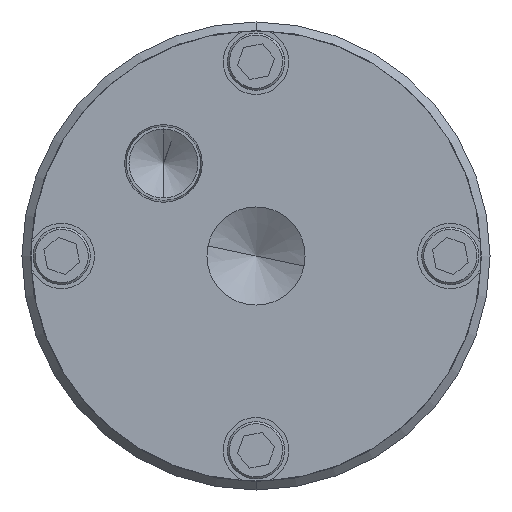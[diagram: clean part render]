
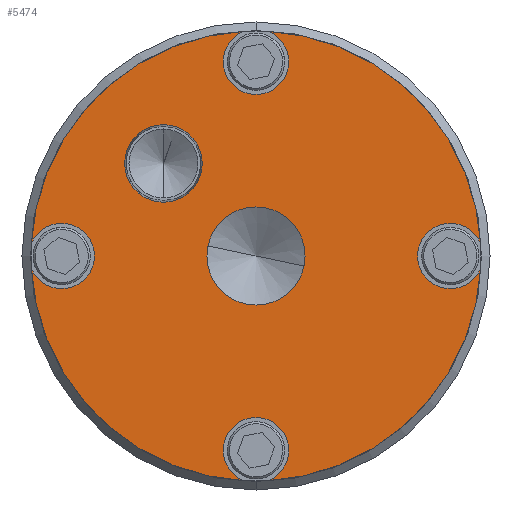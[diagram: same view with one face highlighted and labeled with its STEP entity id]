
A CAD part, front view. The second image highlights one B-rep face of the part: STEP entity #5474.
In plain terms, the highlighted planar face has unit normal (0, -1, 0).
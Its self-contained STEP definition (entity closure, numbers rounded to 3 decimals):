
#4548=CARTESIAN_POINT('',(-11.314,-83.2,-11.314));
#4549=DIRECTION('',(0.,1.,0.));
#4550=DIRECTION('',(1.,0.,0.));
#4551=AXIS2_PLACEMENT_3D('',#4548,#4549,#4550);
#4556=CARTESIAN_POINT('',(-11.314,-83.2,-11.314));
#4557=DIRECTION('',(0.,1.,0.));
#4558=DIRECTION('',(-1.,0.,0.));
#4559=AXIS2_PLACEMENT_3D('',#4556,#4557,#4558);
#4564=CARTESIAN_POINT('',(0.,-83.2,0.));
#4565=DIRECTION('',(0.,-1.,0.));
#4566=DIRECTION('',(0.999,0.,0.054));
#4567=AXIS2_PLACEMENT_3D('',#4564,#4565,#4566);
#4572=CARTESIAN_POINT('',(23.75,-83.2,0.));
#4573=DIRECTION('',(0.,1.,0.));
#4574=DIRECTION('',(-1.,0.,0.));
#4575=AXIS2_PLACEMENT_3D('',#4572,#4573,#4574);
#4580=CARTESIAN_POINT('',(23.75,-83.2,0.));
#4581=DIRECTION('',(0.,1.,0.));
#4582=DIRECTION('',(0.927,0.,-0.374));
#4583=AXIS2_PLACEMENT_3D('',#4580,#4581,#4582);
#4588=CARTESIAN_POINT('',(0.,-83.2,0.));
#4589=DIRECTION('',(0.,-1.,0.));
#4590=DIRECTION('',(0.054,0.,-0.999));
#4591=AXIS2_PLACEMENT_3D('',#4588,#4589,#4590);
#4596=CARTESIAN_POINT('',(0.,-83.2,-23.75));
#4597=DIRECTION('',(0.,1.,0.));
#4598=DIRECTION('',(1.,0.,0.));
#4599=AXIS2_PLACEMENT_3D('',#4596,#4597,#4598);
#4604=CARTESIAN_POINT('',(0.,-83.2,-23.75));
#4605=DIRECTION('',(0.,1.,0.));
#4606=DIRECTION('',(-1.,0.,0.));
#4607=AXIS2_PLACEMENT_3D('',#4604,#4605,#4606);
#4612=CARTESIAN_POINT('',(0.,-83.2,-23.75));
#4613=DIRECTION('',(0.,1.,0.));
#4614=DIRECTION('',(-0.374,0.,-0.927));
#4615=AXIS2_PLACEMENT_3D('',#4612,#4613,#4614);
#4620=CARTESIAN_POINT('',(0.,-83.2,0.));
#4621=DIRECTION('',(0.,-1.,0.));
#4622=DIRECTION('',(-0.999,0.,-0.054));
#4623=AXIS2_PLACEMENT_3D('',#4620,#4621,#4622);
#4628=CARTESIAN_POINT('',(-23.75,-83.2,0.));
#4629=DIRECTION('',(0.,1.,0.));
#4630=DIRECTION('',(1.,0.,0.));
#4631=AXIS2_PLACEMENT_3D('',#4628,#4629,#4630);
#4636=CARTESIAN_POINT('',(-23.75,-83.2,0.));
#4637=DIRECTION('',(0.,1.,0.));
#4638=DIRECTION('',(-0.927,0.,0.374));
#4639=AXIS2_PLACEMENT_3D('',#4636,#4637,#4638);
#4644=CARTESIAN_POINT('',(0.,-83.2,0.));
#4645=DIRECTION('',(0.,-1.,0.));
#4646=DIRECTION('',(-0.054,0.,0.999));
#4647=AXIS2_PLACEMENT_3D('',#4644,#4645,#4646);
#4652=CARTESIAN_POINT('',(0.,-83.2,23.75));
#4653=DIRECTION('',(0.,1.,0.));
#4654=DIRECTION('',(-1.,0.,0.));
#4655=AXIS2_PLACEMENT_3D('',#4652,#4653,#4654);
#4660=CARTESIAN_POINT('',(0.,-83.2,23.75));
#4661=DIRECTION('',(0.,1.,0.));
#4662=DIRECTION('',(1.,0.,0.));
#4663=AXIS2_PLACEMENT_3D('',#4660,#4661,#4662);
#4668=CARTESIAN_POINT('',(0.,-83.2,23.75));
#4669=DIRECTION('',(0.,1.,0.));
#4670=DIRECTION('',(0.374,0.,0.927));
#4671=AXIS2_PLACEMENT_3D('',#4668,#4669,#4670);
#4676=CARTESIAN_POINT('',(0.,-83.2,0.));
#4677=DIRECTION('',(0.,1.,0.));
#4678=DIRECTION('',(1.,0.,0.));
#4679=AXIS2_PLACEMENT_3D('',#4676,#4677,#4678);
#4684=CARTESIAN_POINT('',(0.,-83.2,0.));
#4685=DIRECTION('',(0.,1.,0.));
#4686=DIRECTION('',(-1.,0.,0.));
#4687=AXIS2_PLACEMENT_3D('',#4684,#4685,#4686);
#5209=CARTESIAN_POINT('',(-6.57,-83.2,-11.314));
#5210=VERTEX_POINT('',#5209);
#5211=CARTESIAN_POINT('',(-16.058,-83.2,-11.314));
#5212=VERTEX_POINT('',#5211);
#5231=CARTESIAN_POINT('',(4.,-83.2,23.75));
#5232=VERTEX_POINT('',#5231);
#5233=CARTESIAN_POINT('',(1.497,-83.2,27.459));
#5234=VERTEX_POINT('',#5233);
#5241=CARTESIAN_POINT('',(-4.,-83.2,23.75));
#5242=VERTEX_POINT('',#5241);
#5245=CARTESIAN_POINT('',(27.459,-83.2,1.497));
#5246=VERTEX_POINT('',#5245);
#5259=CARTESIAN_POINT('',(6.,-83.2,0.));
#5260=CARTESIAN_POINT('',(-6.,-83.2,0.));
#5261=VERTEX_POINT('',#5259);
#5262=VERTEX_POINT('',#5260);
#5263=CARTESIAN_POINT('',(19.75,-83.2,0.));
#5264=VERTEX_POINT('',#5263);
#5269=CARTESIAN_POINT('',(27.459,-83.2,-1.497));
#5270=VERTEX_POINT('',#5269);
#5271=CARTESIAN_POINT('',(-1.497,-83.2,27.459));
#5272=VERTEX_POINT('',#5271);
#5287=CARTESIAN_POINT('',(-27.459,-83.2,1.497));
#5288=VERTEX_POINT('',#5287);
#5295=CARTESIAN_POINT('',(1.497,-83.2,-27.459));
#5296=VERTEX_POINT('',#5295);
#5303=CARTESIAN_POINT('',(-19.75,-83.2,0.));
#5304=CARTESIAN_POINT('',(-27.459,-83.2,-1.497));
#5305=VERTEX_POINT('',#5303);
#5306=VERTEX_POINT('',#5304);
#5313=CARTESIAN_POINT('',(4.,-83.2,-23.75));
#5314=VERTEX_POINT('',#5313);
#5321=CARTESIAN_POINT('',(-4.,-83.2,-23.75));
#5322=VERTEX_POINT('',#5321);
#5325=CARTESIAN_POINT('',(-1.497,-83.2,-27.459));
#5326=VERTEX_POINT('',#5325);
#5429=CARTESIAN_POINT('',(0.,-83.2,0.));
#5430=DIRECTION('',(0.,1.,0.));
#5431=DIRECTION('',(1.,0.,0.));
#5432=AXIS2_PLACEMENT_3D('',#5429,#5430,#5431);
#5433=PLANE('',#5432);
#5435=ORIENTED_EDGE('',*,*,#5434,.F.);
#5437=ORIENTED_EDGE('',*,*,#5436,.F.);
#5439=ORIENTED_EDGE('',*,*,#5438,.F.);
#5441=ORIENTED_EDGE('',*,*,#5440,.F.);
#5443=ORIENTED_EDGE('',*,*,#5442,.F.);
#5445=ORIENTED_EDGE('',*,*,#5444,.F.);
#5447=ORIENTED_EDGE('',*,*,#5446,.F.);
#5449=ORIENTED_EDGE('',*,*,#5448,.F.);
#5451=ORIENTED_EDGE('',*,*,#5450,.F.);
#5453=ORIENTED_EDGE('',*,*,#5452,.F.);
#5455=ORIENTED_EDGE('',*,*,#5454,.F.);
#5457=ORIENTED_EDGE('',*,*,#5456,.F.);
#5459=ORIENTED_EDGE('',*,*,#5458,.F.);
#5461=ORIENTED_EDGE('',*,*,#5460,.F.);
#5462=EDGE_LOOP('',(#5435,#5437,#5439,#5441,#5443,#5445,#5447,#5449,#5451,#5453,
#5455,#5457,#5459,#5461));
#5463=FACE_OUTER_BOUND('',#5462,.F.);
#5464=ORIENTED_EDGE('',*,*,#5422,.F.);
#5465=ORIENTED_EDGE('',*,*,#5340,.F.);
#5466=EDGE_LOOP('',(#5464,#5465));
#5467=FACE_BOUND('',#5466,.F.);
#5469=ORIENTED_EDGE('',*,*,#5468,.F.);
#5471=ORIENTED_EDGE('',*,*,#5470,.F.);
#5472=EDGE_LOOP('',(#5469,#5471));
#5473=FACE_BOUND('',#5472,.F.);
#4552=CIRCLE('',#4551,4.744);
#4560=CIRCLE('',#4559,4.744);
#4568=CIRCLE('',#4567,27.5);
#4576=CIRCLE('',#4575,4.);
#4584=CIRCLE('',#4583,4.);
#4592=CIRCLE('',#4591,27.5);
#4600=CIRCLE('',#4599,4.);
#4608=CIRCLE('',#4607,4.);
#4616=CIRCLE('',#4615,4.);
#4624=CIRCLE('',#4623,27.5);
#4632=CIRCLE('',#4631,4.);
#4640=CIRCLE('',#4639,4.);
#4648=CIRCLE('',#4647,27.5);
#4656=CIRCLE('',#4655,4.);
#4664=CIRCLE('',#4663,4.);
#4672=CIRCLE('',#4671,4.);
#4680=CIRCLE('',#4679,6.);
#4688=CIRCLE('',#4687,6.);
#5340=EDGE_CURVE('',#5212,#5210,#4560,.T.);
#5422=EDGE_CURVE('',#5210,#5212,#4552,.T.);
#5434=EDGE_CURVE('',#5246,#5234,#4568,.T.);
#5436=EDGE_CURVE('',#5264,#5246,#4576,.T.);
#5438=EDGE_CURVE('',#5270,#5264,#4584,.T.);
#5440=EDGE_CURVE('',#5296,#5270,#4592,.T.);
#5442=EDGE_CURVE('',#5314,#5296,#4600,.T.);
#5444=EDGE_CURVE('',#5322,#5314,#4608,.T.);
#5446=EDGE_CURVE('',#5326,#5322,#4616,.T.);
#5448=EDGE_CURVE('',#5306,#5326,#4624,.T.);
#5450=EDGE_CURVE('',#5305,#5306,#4632,.T.);
#5452=EDGE_CURVE('',#5288,#5305,#4640,.T.);
#5454=EDGE_CURVE('',#5272,#5288,#4648,.T.);
#5456=EDGE_CURVE('',#5242,#5272,#4656,.T.);
#5458=EDGE_CURVE('',#5232,#5242,#4664,.T.);
#5460=EDGE_CURVE('',#5234,#5232,#4672,.T.);
#5468=EDGE_CURVE('',#5261,#5262,#4680,.T.);
#5470=EDGE_CURVE('',#5262,#5261,#4688,.T.);
#5474=ADVANCED_FACE('',(#5463,#5467,#5473),#5433,.F.);
